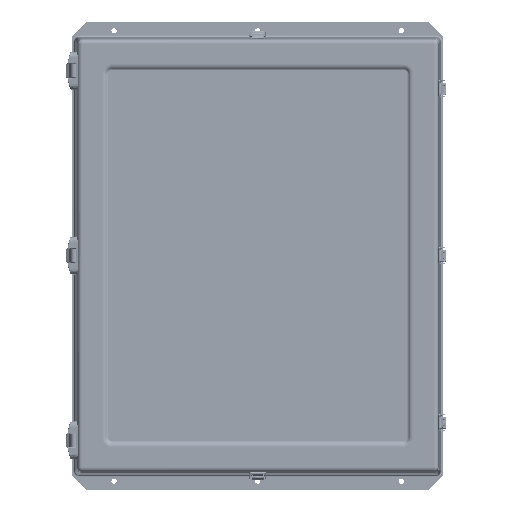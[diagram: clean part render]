
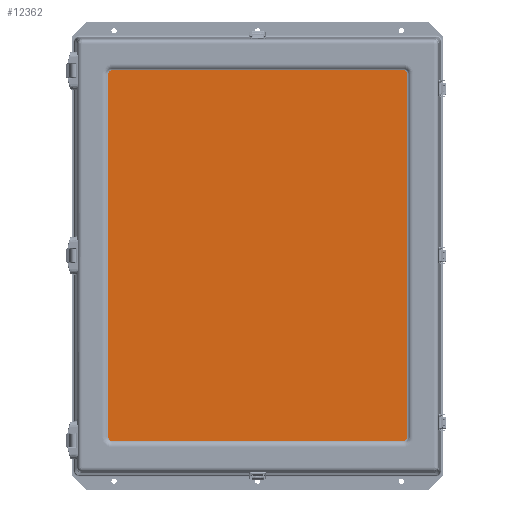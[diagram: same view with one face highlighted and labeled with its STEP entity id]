
A CAD part, top view. The second image highlights one B-rep face of the part: STEP entity #12362.
In plain terms, the highlighted planar face has unit normal (0, 0, 1).
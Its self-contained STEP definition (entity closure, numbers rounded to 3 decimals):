
#10140 = AXIS2_PLACEMENT_3D ( 'NONE', #39913, #39920, #39921 ) ;
#10171 = AXIS2_PLACEMENT_3D ( 'NONE', #39962, #39975, #39976 ) ;
#10196 = AXIS2_PLACEMENT_3D ( 'NONE', #39980, #39983, #39984 ) ;
#10199 = AXIS2_PLACEMENT_3D ( 'NONE', #39977, #39988, #39989 ) ;
#12362 = ADVANCED_FACE ( 'NONE', ( #31005 ), #98329, .T. ) ;
#25936 = ORIENTED_EDGE ( 'NONE', *, *, #58671, .T. ) ;
#25939 = ORIENTED_EDGE ( 'NONE', *, *, #58652, .T. ) ;
#25942 = ORIENTED_EDGE ( 'NONE', *, *, #58632, .T. ) ;
#25943 = ORIENTED_EDGE ( 'NONE', *, *, #58672, .T. ) ;
#25946 = ORIENTED_EDGE ( 'NONE', *, *, #58660, .T. ) ;
#25948 = ORIENTED_EDGE ( 'NONE', *, *, #58669, .T. ) ;
#25951 = ORIENTED_EDGE ( 'NONE', *, *, #58673, .T. ) ;
#25954 = ORIENTED_EDGE ( 'NONE', *, *, #58674, .T. ) ;
#31005 = FACE_OUTER_BOUND ( 'NONE', #49118, .T. ) ;
#34402 = LINE ( 'NONE', #39850, #34403 ) ;
#34403 = VECTOR ( 'NONE', #39851, 39.37 ) ;
#34419 = LINE ( 'NONE', #39939, #34426 ) ;
#34423 = CIRCLE ( 'NONE', #10140, 0.282 ) ;
#34426 = VECTOR ( 'NONE', #39940, 39.37 ) ;
#34432 = LINE ( 'NONE', #39985, #34442 ) ;
#34438 = VECTOR ( 'NONE', #39981, 39.37 ) ;
#34442 = VECTOR ( 'NONE', #39986, 39.37 ) ;
#34444 = CIRCLE ( 'NONE', #10171, 0.282 ) ;
#34445 = LINE ( 'NONE', #39974, #34438 ) ;
#34449 = CIRCLE ( 'NONE', #10196, 0.282 ) ;
#34451 = CIRCLE ( 'NONE', #10199, 0.282 ) ;
#38693 = CARTESIAN_POINT ( 'NONE',  ( -12.188, -15.471, 1.06 ) ) ;
#38696 = CARTESIAN_POINT ( 'NONE',  ( -12.471, -15.188, 1.06 ) ) ;
#38707 = CARTESIAN_POINT ( 'NONE',  ( -12.471, 15.188, 1.06 ) ) ;
#38725 = CARTESIAN_POINT ( 'NONE',  ( 12.188, 15.471, 1.06 ) ) ;
#39850 = CARTESIAN_POINT ( 'NONE',  ( -12.188, 15.471, 1.06 ) ) ;
#39851 = DIRECTION ( 'NONE',  ( -1., 0., 0. ) ) ;
#39913 = CARTESIAN_POINT ( 'NONE',  ( 12.188, 15.188, 1.06 ) ) ;
#39920 = DIRECTION ( 'NONE',  ( 0., 0., 1. ) ) ;
#39921 = DIRECTION ( 'NONE',  ( 1., 0., 0. ) ) ;
#39939 = CARTESIAN_POINT ( 'NONE',  ( -12.471, -15.188, 1.06 ) ) ;
#39940 = DIRECTION ( 'NONE',  ( 0., -1., 0. ) ) ;
#39962 = CARTESIAN_POINT ( 'NONE',  ( -12.188, -15.188, 1.06 ) ) ;
#39974 = CARTESIAN_POINT ( 'NONE',  ( 12.471, 15.188, 1.06 ) ) ;
#39975 = DIRECTION ( 'NONE',  ( 0., 0., 1. ) ) ;
#39976 = DIRECTION ( 'NONE',  ( 1., 0., 0. ) ) ;
#39977 = CARTESIAN_POINT ( 'NONE',  ( 12.188, -15.188, 1.06 ) ) ;
#39980 = CARTESIAN_POINT ( 'NONE',  ( -12.188, 15.188, 1.06 ) ) ;
#39981 = DIRECTION ( 'NONE',  ( 0., 1., 0. ) ) ;
#39983 = DIRECTION ( 'NONE',  ( 0., 0., 1. ) ) ;
#39984 = DIRECTION ( 'NONE',  ( 1., 0., 0. ) ) ;
#39985 = CARTESIAN_POINT ( 'NONE',  ( 12.188, -15.471, 1.06 ) ) ;
#39986 = DIRECTION ( 'NONE',  ( 1., 0., 0. ) ) ;
#39988 = DIRECTION ( 'NONE',  ( 0., 0., 1. ) ) ;
#39989 = DIRECTION ( 'NONE',  ( 1., 0., 0. ) ) ;
#49118 = EDGE_LOOP ( 'NONE', ( #25936, #25939, #25942, #25943, #25946, #25948, #25951, #25954 ) ) ;
#51536 = VERTEX_POINT ( 'NONE', #38693 ) ;
#51539 = VERTEX_POINT ( 'NONE', #38696 ) ;
#51546 = VERTEX_POINT ( 'NONE', #38707 ) ;
#51558 = VERTEX_POINT ( 'NONE', #38725 ) ;
#51628 = VERTEX_POINT ( 'NONE', #79749 ) ;
#51647 = VERTEX_POINT ( 'NONE', #79765 ) ;
#51656 = VERTEX_POINT ( 'NONE', #79774 ) ;
#51662 = VERTEX_POINT ( 'NONE', #79778 ) ;
#56943 = AXIS2_PLACEMENT_3D ( 'NONE', #98333, #98393, #98395 ) ;
#58632 = EDGE_CURVE ( 'NONE', #51558, #51647, #34402, .T. ) ;
#58652 = EDGE_CURVE ( 'NONE', #51656, #51558, #34423, .T. ) ;
#58660 = EDGE_CURVE ( 'NONE', #51546, #51539, #34419, .T. ) ;
#58669 = EDGE_CURVE ( 'NONE', #51539, #51536, #34444, .T. ) ;
#58671 = EDGE_CURVE ( 'NONE', #51662, #51656, #34445, .T. ) ;
#58672 = EDGE_CURVE ( 'NONE', #51647, #51546, #34449, .T. ) ;
#58673 = EDGE_CURVE ( 'NONE', #51536, #51628, #34432, .T. ) ;
#58674 = EDGE_CURVE ( 'NONE', #51628, #51662, #34451, .T. ) ;
#79749 = CARTESIAN_POINT ( 'NONE',  ( 12.188, -15.471, 1.06 ) ) ;
#79765 = CARTESIAN_POINT ( 'NONE',  ( -12.188, 15.471, 1.06 ) ) ;
#79774 = CARTESIAN_POINT ( 'NONE',  ( 12.471, 15.188, 1.06 ) ) ;
#79778 = CARTESIAN_POINT ( 'NONE',  ( 12.471, -15.188, 1.06 ) ) ;
#98329 = PLANE ( 'NONE',  #56943 ) ;
#98333 = CARTESIAN_POINT ( 'NONE',  ( -12.188, 15.188, 1.06 ) ) ;
#98393 = DIRECTION ( 'NONE',  ( 0., 0., 1. ) ) ;
#98395 = DIRECTION ( 'NONE',  ( 1., 0., 0. ) ) ;
